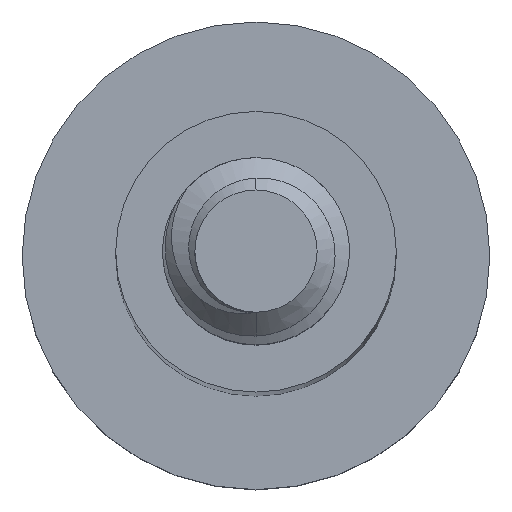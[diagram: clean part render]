
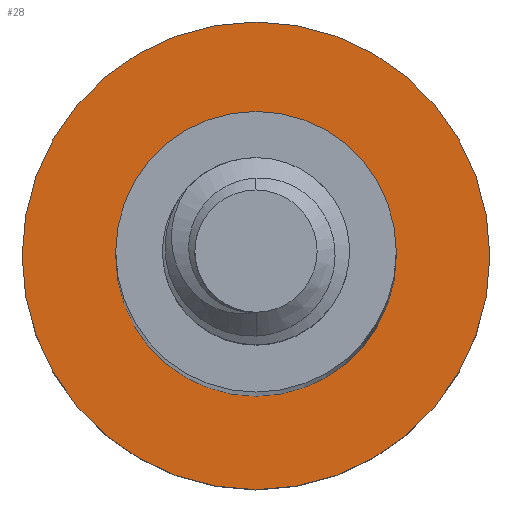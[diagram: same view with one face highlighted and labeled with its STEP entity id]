
A CAD part, top view. The second image highlights one B-rep face of the part: STEP entity #28.
In plain terms, the highlighted planar face has unit normal (0, 0, 1).
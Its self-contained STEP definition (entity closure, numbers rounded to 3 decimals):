
#28 = ADVANCED_FACE ( 'NONE', ( #1117, #1659 ), #343, .F. ) ;
#107 = CARTESIAN_POINT ( 'NONE',  ( 0., 0., -25. ) ) ;
#247 = ORIENTED_EDGE ( 'NONE', *, *, #773, .F. ) ;
#257 = AXIS2_PLACEMENT_3D ( 'NONE', #313, #1027, #832 ) ;
#275 = DIRECTION ( 'NONE',  ( 0., 0., -1. ) ) ;
#313 = CARTESIAN_POINT ( 'NONE',  ( 0., 0., -25. ) ) ;
#343 = PLANE ( 'NONE',  #1967 ) ;
#512 = ORIENTED_EDGE ( 'NONE', *, *, #1805, .T. ) ;
#716 = CARTESIAN_POINT ( 'NONE',  ( 0., 0., -25. ) ) ;
#773 = EDGE_CURVE ( 'NONE', #1978, #1673, #1459, .T. ) ;
#821 = CARTESIAN_POINT ( 'NONE',  ( 0., 0., -25. ) ) ;
#832 = DIRECTION ( 'NONE',  ( -1., 0., 0. ) ) ;
#860 = DIRECTION ( 'NONE',  ( 0., 0., -1. ) ) ;
#900 = CARTESIAN_POINT ( 'NONE',  ( -1.5, 0., -25. ) ) ;
#1000 = EDGE_CURVE ( 'NONE', #1673, #1978, #2465, .T. ) ;
#1027 = DIRECTION ( 'NONE',  ( 0., 0., -1. ) ) ;
#1117 = FACE_BOUND ( 'NONE', #2110, .T. ) ;
#1199 = CARTESIAN_POINT ( 'NONE',  ( 2.5, 0., -25. ) ) ;
#1238 = DIRECTION ( 'NONE',  ( 0., 0., -1. ) ) ;
#1429 = VERTEX_POINT ( 'NONE', #900 ) ;
#1455 = CIRCLE ( 'NONE', #2422, 1.5 ) ;
#1459 = CIRCLE ( 'NONE', #257, 2.5 ) ;
#1462 = CARTESIAN_POINT ( 'NONE',  ( 1.5, 0., -25. ) ) ;
#1505 = DIRECTION ( 'NONE',  ( 0., 0., -1. ) ) ;
#1529 = AXIS2_PLACEMENT_3D ( 'NONE', #821, #1238, #2014 ) ;
#1632 = ORIENTED_EDGE ( 'NONE', *, *, #1000, .F. ) ;
#1651 = DIRECTION ( 'NONE',  ( -1., 0., 0. ) ) ;
#1659 = FACE_OUTER_BOUND ( 'NONE', #2284, .T. ) ;
#1673 = VERTEX_POINT ( 'NONE', #1199 ) ;
#1696 = ORIENTED_EDGE ( 'NONE', *, *, #2381, .T. ) ;
#1805 = EDGE_CURVE ( 'NONE', #2390, #1429, #2378, .T. ) ;
#1967 = AXIS2_PLACEMENT_3D ( 'NONE', #716, #1505, #2282 ) ;
#1978 = VERTEX_POINT ( 'NONE', #2457 ) ;
#2014 = DIRECTION ( 'NONE',  ( -1., 0., 0. ) ) ;
#2110 = EDGE_LOOP ( 'NONE', ( #1696, #512 ) ) ;
#2234 = AXIS2_PLACEMENT_3D ( 'NONE', #2412, #275, #2388 ) ;
#2282 = DIRECTION ( 'NONE',  ( -1., 0., 0. ) ) ;
#2284 = EDGE_LOOP ( 'NONE', ( #1632, #247 ) ) ;
#2378 = CIRCLE ( 'NONE', #1529, 1.5 ) ;
#2381 = EDGE_CURVE ( 'NONE', #1429, #2390, #1455, .T. ) ;
#2388 = DIRECTION ( 'NONE',  ( -1., 0., 0. ) ) ;
#2390 = VERTEX_POINT ( 'NONE', #1462 ) ;
#2412 = CARTESIAN_POINT ( 'NONE',  ( 0., 0., -25. ) ) ;
#2422 = AXIS2_PLACEMENT_3D ( 'NONE', #107, #860, #1651 ) ;
#2457 = CARTESIAN_POINT ( 'NONE',  ( -2.5, 0., -25. ) ) ;
#2465 = CIRCLE ( 'NONE', #2234, 2.5 ) ;
